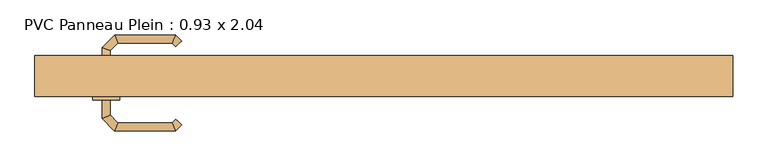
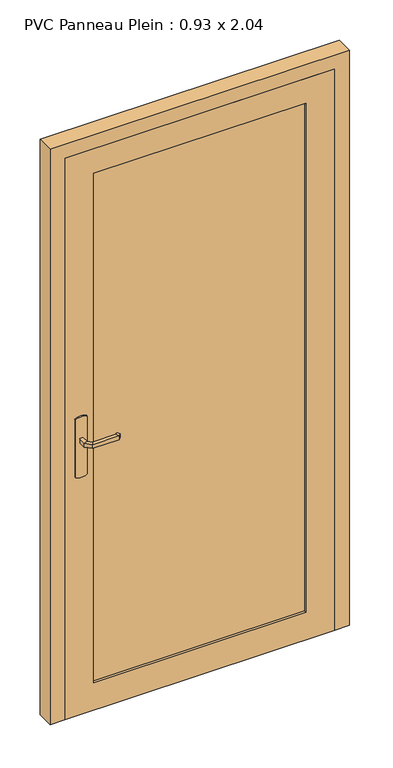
"""IFC4 building model written with IfcOpenShell, lengths in millimetres: door geometry, PVC Panneau Plein : 0.93 x 2.04."""

from ifc_helpers import new_model, si_unit, point, frame, frame_2d, origin, place, context, project, spatial, polyline, circle_curve, ellipse_curve, trimmed, segment, composite_curve, outline, extrude, faceted_brep, source, transform, mapped, element, save
from ifc_brep_helpers import plane_surface, cylinder_surface, advanced_brep


def pvc_panneau_plein_0_93_x_2_04_92b54130(model_context):
    return source(origin(), model_context, "Body", "SolidModel", [
        advanced_brep(
        [(-404.0, -48.7935702, 993.0), (-404.0, -48.7935702, 1007.0), (-416.0, -48.7935702, 1007.0), (-416.0, -48.7935702, 993.0), (-404.0, -26.3083657, 993.0), (-404.0, -26.3083657, 1007.0), (-416.0, -21.337803, 1007.0), (-416.0, -21.337803, 993.0), (-392.5147186, -14.8230843, 993.0), (-392.5147186, -14.8230843, 1007.0), (-397.4852814, -2.8230843, 1007.0), (-397.4852814, -2.8230843, 993.0), (-312.4394977, -14.8230843, 993.0), (-312.4394977, -14.8230843, 1007.0), (-307.468935, -2.8230843, 1007.0), (-307.468935, -2.8230843, 993.0), (-307.1257892, -20.1367928, 993.0), (-298.6405078, -11.6515115, 993.0), (-298.6405078, -11.6515115, 1007.0), (-307.1257892, -20.1367928, 1007.0)],
        [
            (0, 1),
            (1, 2, circle_curve(frame((-410.0, -48.7935702, 986.9542278), z_axis=(0.0, -1.0, 0.0), x_axis=(-1.0, 0.0, 0.0)), 20.9244589)),
            (2, 3),
            (3, 0, circle_curve(frame((-410.0, -48.7935702, 1013.0457722), z_axis=(0.0, -1.0, 0.0), x_axis=(-1.0, 0.0, 0.0)), 20.9244589)),
            (0, 4),
            (4, 5),
            (5, 1),
            (5, 6, ellipse_curve(frame((-410.0, -23.8230843, 986.9542278), z_axis=(-0.38268343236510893, -0.9238795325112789, 0.0), x_axis=(0.9238795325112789, -0.3826834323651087, 0.0)), 22.6484711, 20.9244589)),
            (6, 2),
            (6, 7),
            (7, 3),
            (7, 4, ellipse_curve(frame((-410.0, -23.8230843, 1013.0457722), z_axis=(-0.38268343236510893, -0.9238795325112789, 0.0), x_axis=(0.9238795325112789, -0.3826834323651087, 0.0)), 22.6484711, 20.9244589)),
            (4, 8),
            (8, 9),
            (9, 5),
            (9, 10, ellipse_curve(frame((-395.0, -8.8230843, 986.9542278), z_axis=(-0.9238795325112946, -0.38268343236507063, 0.0), x_axis=(0.3826834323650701, -0.9238795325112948, 0.0)), 22.6484711, 20.9244589)),
            (10, 6),
            (10, 11),
            (11, 7),
            (11, 8, ellipse_curve(frame((-395.0, -8.8230843, 1013.0457722), z_axis=(-0.9238795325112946, -0.38268343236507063, 0.0), x_axis=(0.3826834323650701, -0.9238795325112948, 0.0)), 22.6484711, 20.9244589)),
            (8, 12),
            (12, 13),
            (13, 9),
            (13, 14, ellipse_curve(frame((-309.9542163, -8.8230843, 986.9542278), z_axis=(-0.9238795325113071, 0.38268343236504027, 0.0), x_axis=(-0.38268343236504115, -0.9238795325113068, 0.0)), 22.6484711, 20.9244589)),
            (14, 10),
            (14, 15),
            (15, 11),
            (15, 12, ellipse_curve(frame((-309.9542163, -8.8230843, 1013.0457722), z_axis=(-0.9238795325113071, 0.38268343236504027, 0.0), x_axis=(-0.38268343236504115, -0.9238795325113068, 0.0)), 22.6484711, 20.9244589)),
            (16, 17, circle_curve(frame((-302.8831485, -15.8941521, 1013.0457722), z_axis=(0.7071067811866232, -0.7071067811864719, 0.0), x_axis=(0.7071067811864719, 0.7071067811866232, 0.0)), 20.9244589)),
            (17, 18),
            (18, 19, circle_curve(frame((-302.8831485, -15.8941521, 986.9542278), z_axis=(0.7071067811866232, -0.7071067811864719, 0.0), x_axis=(0.7071067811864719, 0.7071067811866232, 0.0)), 20.9244589)),
            (19, 16),
            (12, 16),
            (19, 13),
            (18, 14),
            (17, 15),
        ],
        [
            plane_surface(frame((-419.2195445, -48.7935702, 1000.0), z_axis=(0.0, -1.0, 0.0), x_axis=(0.0, 0.0, 1.0))),
            plane_surface(frame((-404.0, -48.7935702, 993.0), z_axis=(1.0, 0.0, 0.0), x_axis=(0.0, 1.0, 0.0))),
            cylinder_surface(frame((-410.0, -48.7935702, 986.9542278), z_axis=(0.0, -1.0, 0.0), x_axis=(-1.0, 0.0, 0.0)), 20.9244589),
            plane_surface(frame((-416.0, -48.7935702, 1007.0), z_axis=(-1.0, 0.0, 0.0), x_axis=(0.0, 1.0, 0.0))),
            cylinder_surface(frame((-410.0, -48.7935702, 1013.0457722), z_axis=(0.0, -1.0, 0.0), x_axis=(-1.0, 0.0, 0.0)), 20.9244589),
            plane_surface(frame((-404.0, -26.3083657, 993.0), z_axis=(0.707106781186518, -0.707106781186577, 0.0), x_axis=(0.707106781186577, 0.707106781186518, 0.0))),
            cylinder_surface(frame((-410.0, -23.8230843, 986.9542278), z_axis=(-0.7071067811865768, -0.7071067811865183, 0.0), x_axis=(-0.7071067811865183, 0.7071067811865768, 0.0)), 20.9244589),
            plane_surface(frame((-416.0, -21.337803, 1007.0), z_axis=(-0.7071067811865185, 0.7071067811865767, 0.0), x_axis=(0.7071067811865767, 0.7071067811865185, 0.0))),
            cylinder_surface(frame((-410.0, -23.8230843, 1013.0457722), z_axis=(-0.7071067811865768, -0.7071067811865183, 0.0), x_axis=(-0.7071067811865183, 0.7071067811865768, 0.0)), 20.9244589),
            plane_surface(frame((-392.5147186, -14.8230843, 993.0), z_axis=(0.0, -1.0, 0.0), x_axis=(1.0, 0.0, 0.0))),
            cylinder_surface(frame((-395.0, -8.8230843, 986.9542278), z_axis=(-1.0, 0.0, 0.0), x_axis=(0.0, 1.0, 0.0)), 20.9244589),
            plane_surface(frame((-397.4852814, -2.8230843, 1007.0), z_axis=(0.0, 1.0, 0.0), x_axis=(1.0, 0.0, 0.0))),
            cylinder_surface(frame((-395.0, -8.8230843, 1013.0457722), z_axis=(-1.0, 0.0, 0.0), x_axis=(0.0, 1.0, 0.0)), 20.9244589),
            plane_surface(frame((-302.8831485, -15.8941521, 990.7804555), z_axis=(0.7071067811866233, -0.7071067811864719, 0.0), x_axis=(0.7071067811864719, 0.7071067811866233, 0.0))),
            plane_surface(frame((-312.4394977, -14.8230843, 993.0), z_axis=(-0.707106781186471, -0.7071067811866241, 0.0), x_axis=(0.7071067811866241, -0.707106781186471, 0.0))),
            cylinder_surface(frame((-309.9542163, -8.8230843, 986.9542278), z_axis=(-0.7071067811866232, 0.7071067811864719, 0.0), x_axis=(0.7071067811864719, 0.7071067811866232, 0.0)), 20.9244589),
            plane_surface(frame((-307.468935, -2.8230843, 1007.0), z_axis=(0.7071067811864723, 0.7071067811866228, 0.0), x_axis=(0.7071067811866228, -0.7071067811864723, 0.0))),
            cylinder_surface(frame((-309.9542163, -8.8230843, 1013.0457722), z_axis=(-0.7071067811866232, 0.7071067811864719, 0.0), x_axis=(0.7071067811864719, 0.7071067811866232, 0.0)), 20.9244589),
        ],
        [
            (0, [[1, 2, 3, 4]]),
            (1, [[-1, 5, 6, 7]]),
            (2, [[-2, -7, 8, 9]]),
            (3, [[-3, -9, 10, 11]]),
            (4, [[-4, -11, 12, -5]]),
            (5, [[-6, 13, 14, 15]]),
            (6, [[-8, -15, 16, 17]]),
            (7, [[-10, -17, 18, 19]]),
            (8, [[-12, -19, 20, -13]]),
            (9, [[-14, 21, 22, 23]]),
            (10, [[-16, -23, 24, 25]]),
            (11, [[-18, -25, 26, 27]]),
            (12, [[-20, -27, 28, -21]]),
            (13, [[29, 30, 31, 32]]),
            (14, [[-22, 33, -32, 34]]),
            (15, [[-24, -34, -31, 35]]),
            (16, [[-26, -35, -30, 36]]),
            (17, [[-28, -36, -29, -33]]),
        ],
    ),
        advanced_brep(
        [(-416.0, -98.7935702, 1007.0), (-404.0, -98.7935702, 1007.0), (-404.0, -98.7935702, 993.0), (-416.0, -98.7935702, 993.0), (-416.0, -126.4445209, 1007.0), (-404.0, -121.4739582, 1007.0), (-404.0, -121.4739582, 993.0), (-416.0, -126.4445209, 993.0), (-397.62279, -144.8217309, 1007.0), (-392.6522273, -132.8217309, 1007.0), (-392.6522273, -132.8217309, 993.0), (-397.62279, -144.8217309, 993.0), (-307.496078, -144.8217309, 1007.0), (-312.4666408, -132.8217309, 1007.0), (-312.4666408, -132.8217309, 993.0), (-307.496078, -144.8217309, 993.0), (-298.6676509, -135.9933038, 1007.0), (-298.6676509, -135.9933038, 993.0), (-307.1529323, -127.5080224, 993.0), (-307.1529323, -127.5080224, 1007.0)],
        [
            (0, 1, circle_curve(frame((-410.0, -98.7935702, 986.9542278), z_axis=(0.0, 1.0, 0.0), x_axis=(1.0, 0.0, 0.0)), 20.9244589)),
            (1, 2),
            (2, 3, circle_curve(frame((-410.0, -98.7935702, 1013.0457722), z_axis=(0.0, 1.0, 0.0), x_axis=(1.0, 0.0, 0.0)), 20.9244589)),
            (3, 0),
            (0, 4),
            (4, 5, ellipse_curve(frame((-410.0, -123.9592395, 986.9542278), z_axis=(-0.3826834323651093, 0.9238795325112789, 0.0), x_axis=(0.9238795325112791, 0.38268343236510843, 0.0)), 22.6484711, 20.9244589)),
            (5, 1),
            (5, 6),
            (6, 2),
            (6, 7, ellipse_curve(frame((-410.0, -123.9592395, 1013.0457722), z_axis=(-0.3826834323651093, 0.9238795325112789, 0.0), x_axis=(0.9238795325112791, 0.38268343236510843, 0.0)), 22.6484711, 20.9244589)),
            (7, 3),
            (7, 4),
            (4, 8),
            (8, 9, ellipse_curve(frame((-395.1375086, -138.8217309, 986.9542278), z_axis=(-0.9238795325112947, 0.38268343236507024, 0.0), x_axis=(0.3826834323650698, 0.9238795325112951, 0.0)), 22.6484711, 20.9244589)),
            (9, 5),
            (9, 10),
            (10, 6),
            (10, 11, ellipse_curve(frame((-395.1375086, -138.8217309, 1013.0457722), z_axis=(-0.9238795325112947, 0.38268343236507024, 0.0), x_axis=(0.3826834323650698, 0.9238795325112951, 0.0)), 22.6484711, 20.9244589)),
            (11, 7),
            (11, 8),
            (8, 12),
            (12, 13, ellipse_curve(frame((-309.9813594, -138.8217309, 986.9542278), z_axis=(-0.9238795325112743, -0.3826834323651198, 0.0), x_axis=(-0.38268343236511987, 0.9238795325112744, 0.0)), 22.6484711, 20.9244589)),
            (13, 9),
            (13, 14),
            (14, 10),
            (14, 15, ellipse_curve(frame((-309.9813594, -138.8217309, 1013.0457722), z_axis=(-0.9238795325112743, -0.3826834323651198, 0.0), x_axis=(-0.38268343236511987, 0.9238795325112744, 0.0)), 22.6484711, 20.9244589)),
            (15, 11),
            (15, 12),
            (16, 17),
            (17, 18, circle_curve(frame((-302.9102916, -131.7506631, 1013.0457722), z_axis=(0.7071067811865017, 0.7071067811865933, 0.0), x_axis=(-0.7071067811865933, 0.7071067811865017, 0.0)), 20.9244589)),
            (18, 19),
            (19, 16, circle_curve(frame((-302.9102916, -131.7506631, 986.9542278), z_axis=(0.7071067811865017, 0.7071067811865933, 0.0), x_axis=(-0.7071067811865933, 0.7071067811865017, 0.0)), 20.9244589)),
            (12, 16),
            (19, 13),
            (18, 14),
            (17, 15),
        ],
        [
            plane_surface(frame((-419.2195445, -98.7935702, 1000.0), z_axis=(0.0, 1.0, 0.0), x_axis=(0.0, 0.0, -1.0))),
            cylinder_surface(frame((-410.0, -98.7935702, 986.9542278), z_axis=(0.0, 1.0, 0.0), x_axis=(1.0, 0.0, 0.0)), 20.9244589),
            plane_surface(frame((-404.0, -98.7935702, 1007.0), z_axis=(1.0, 0.0, 0.0), x_axis=(0.0, -1.0, 0.0))),
            cylinder_surface(frame((-410.0, -98.7935702, 1013.0457722), z_axis=(0.0, 1.0, 0.0), x_axis=(1.0, 0.0, 0.0)), 20.9244589),
            plane_surface(frame((-416.0, -98.7935702, 993.0), z_axis=(-1.0, 0.0, 0.0), x_axis=(0.0, -1.0, 0.0))),
            cylinder_surface(frame((-410.0, -123.9592395, 986.9542278), z_axis=(-0.7071067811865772, 0.7071067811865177, 0.0), x_axis=(0.7071067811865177, 0.7071067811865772, 0.0)), 20.9244589),
            plane_surface(frame((-404.0, -121.4739582, 1007.0), z_axis=(0.7071067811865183, 0.7071067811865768, 0.0), x_axis=(0.7071067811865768, -0.7071067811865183, 0.0))),
            cylinder_surface(frame((-410.0, -123.9592395, 1013.0457722), z_axis=(-0.7071067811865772, 0.7071067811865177, 0.0), x_axis=(0.7071067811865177, 0.7071067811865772, 0.0)), 20.9244589),
            plane_surface(frame((-416.0, -126.4445209, 993.0), z_axis=(-0.707106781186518, -0.707106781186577, 0.0), x_axis=(0.707106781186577, -0.707106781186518, 0.0))),
            cylinder_surface(frame((-395.1375086, -138.8217309, 986.9542278), z_axis=(-1.0, 0.0, 0.0), x_axis=(0.0, 1.0, 0.0)), 20.9244589),
            plane_surface(frame((-392.6522273, -132.8217309, 1007.0), z_axis=(0.0, 1.0, 0.0), x_axis=(1.0, 0.0, 0.0))),
            cylinder_surface(frame((-395.1375086, -138.8217309, 1013.0457722), z_axis=(-1.0, 0.0, 0.0), x_axis=(0.0, 1.0, 0.0)), 20.9244589),
            plane_surface(frame((-397.62279, -144.8217309, 993.0), z_axis=(0.0, -1.0, 0.0), x_axis=(1.0, 0.0, 0.0))),
            plane_surface(frame((-302.9102916, -131.7506631, 1009.2195445), z_axis=(0.7071067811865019, 0.7071067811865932, 0.0), x_axis=(0.7071067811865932, -0.7071067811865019, 0.0))),
            cylinder_surface(frame((-309.9813594, -138.8217309, 986.9542278), z_axis=(-0.7071067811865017, -0.7071067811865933, 0.0), x_axis=(-0.7071067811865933, 0.7071067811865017, 0.0)), 20.9244589),
            plane_surface(frame((-312.4666408, -132.8217309, 1007.0), z_axis=(-0.7071067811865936, 0.7071067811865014, 0.0), x_axis=(0.7071067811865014, 0.7071067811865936, 0.0))),
            cylinder_surface(frame((-309.9813594, -138.8217309, 1013.0457722), z_axis=(-0.7071067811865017, -0.7071067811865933, 0.0), x_axis=(-0.7071067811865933, 0.7071067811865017, 0.0)), 20.9244589),
            plane_surface(frame((-307.496078, -144.8217309, 993.0), z_axis=(0.707106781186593, -0.7071067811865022, 0.0), x_axis=(0.7071067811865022, 0.707106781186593, 0.0))),
        ],
        [
            (0, [[1, 2, 3, 4]]),
            (1, [[-1, 5, 6, 7]]),
            (2, [[-2, -7, 8, 9]]),
            (3, [[-3, -9, 10, 11]]),
            (4, [[-4, -11, 12, -5]]),
            (5, [[-6, 13, 14, 15]]),
            (6, [[-8, -15, 16, 17]]),
            (7, [[-10, -17, 18, 19]]),
            (8, [[-12, -19, 20, -13]]),
            (9, [[-14, 21, 22, 23]]),
            (10, [[-16, -23, 24, 25]]),
            (11, [[-18, -25, 26, 27]]),
            (12, [[-20, -27, 28, -21]]),
            (13, [[29, 30, 31, 32]]),
            (14, [[-22, 33, -32, 34]]),
            (15, [[-24, -34, -31, 35]]),
            (16, [[-26, -35, -30, 36]]),
            (17, [[-28, -36, -29, -33]]),
        ],
    ),
        extrude(outline(composite_curve([segment(trimmed(circle_curve(frame_2d((1045.3589838, -410.0)), 40.0), [point((1080.0, -390.0))], [point((1080.0, -430.0))], False, "CARTESIAN"), True, "CONTINUOUS"), segment(polyline([(1080.0, -430.0), (870.0, -430.0)]), True, "CONTINUOUS"), segment(trimmed(circle_curve(frame_2d((904.6410162, -410.0)), 40.0), [point((870.0, -430.0))], [point((870.0, -390.0))], False, "CARTESIAN"), True, "CONTINUOUS"), segment(polyline([(870.0, -390.0), (1080.0, -390.0)]), True, "CONTINUOUS")], self_intersect=False)), frame((0.0, -53.7935702, 0.0), z_axis=(0.0, 1.0, 0.0), x_axis=(0.0, 0.0, 1.0)), (0.0, 0.0, 1.0), 5.0),
        extrude(outline(composite_curve([segment(trimmed(circle_curve(frame_2d((904.6410162, -410.0)), 40.0), [point((870.0, -430.0))], [point((870.0, -390.0))], False, "CARTESIAN"), True, "CONTINUOUS"), segment(polyline([(870.0, -390.0), (1080.0, -390.0)]), True, "CONTINUOUS"), segment(trimmed(circle_curve(frame_2d((1045.3589838, -410.0)), 40.0), [point((1080.0, -390.0))], [point((1080.0, -430.0))], False, "CARTESIAN"), True, "CONTINUOUS"), segment(polyline([(1080.0, -430.0), (870.0, -430.0)]), True, "CONTINUOUS")], self_intersect=False)), frame((0.0, -98.7935702, 0.0), z_axis=(0.0, 1.0, 0.0), x_axis=(0.0, 0.0, 1.0)), (0.0, 0.0, 1.0), 5.0),
        faceted_brep([(-515.0, -93.7935702, 0.0), (-515.0, -33.7935702, 0.0), (-450.0, -33.7935702, 0.0), (-450.0, -53.7935702, 0.0), (-465.0, -53.7935702, 0.0), (-465.0, -93.7935702, 0.0), (-515.0, -93.7935702, 2090.0), (-515.0, -33.7935702, 2090.0), (515.0, -33.7935702, 2090.0), (515.0, -33.7935702, 0.0), (450.0, -33.7935702, 0.0), (450.0, -33.7935702, 2025.0), (-450.0, -33.7935702, 2025.0), (-450.0, -53.7935702, 2025.0), (450.0, -53.7935702, 2025.0), (450.0, -53.7935702, 0.0), (465.0, -53.7935702, 0.0), (465.0, -53.7935702, 2040.0), (-465.0, -53.7935702, 2040.0), (-465.0, -93.7935702, 2040.0), (465.0, -93.7935702, 2040.0), (465.0, -93.7935702, 0.0), (515.0, -93.7935702, 0.0), (515.0, -93.7935702, 2090.0)], [[[0, 1, 2, 3, 4, 5]], [[1, 0, 6, 7]], [[2, 1, 7, 8, 9, 10, 11, 12]], [[3, 2, 12, 13]], [[4, 3, 13, 14, 15, 16, 17, 18]], [[5, 4, 18, 19]], [[0, 5, 19, 20, 21, 22, 23, 6]], [[9, 8, 23, 22]], [[10, 9, 22, 21, 16, 15]], [[11, 10, 15, 14]], [[17, 16, 21, 20]], [[7, 6, 23, 8]], [[12, 11, 14, 13]], [[18, 17, 20, 19]]]),
        faceted_brep([(-465.0, -93.7935702, 2040.0), (-465.0, -93.7935702, 0.0), (465.0, -93.7935702, 0.0), (465.0, -93.7935702, 2040.0), (365.0, -93.7935702, 1950.0), (365.0, -93.7935702, 100.0), (-365.0, -93.7935702, 100.0), (-365.0, -93.7935702, 1950.0), (-465.0, -53.7935702, 2040.0), (465.0, -53.7935702, 2040.0), (465.0, -53.7935702, 0.0), (-465.0, -53.7935702, 0.0), (-365.0, -53.7935702, 1950.0), (-365.0, -53.7935702, 100.0), (365.0, -53.7935702, 100.0), (365.0, -53.7935702, 1950.0), (365.0, -85.7935702, 1950.0), (-365.0, -85.7935702, 1950.0), (-365.0, -85.7935702, 100.0), (365.0, -85.7935702, 100.0), (-365.0, -61.7935702, 1950.0), (365.0, -61.7935702, 1950.0), (365.0, -61.7935702, 100.0), (-365.0, -61.7935702, 100.0)], [[[0, 1, 2, 3], [4, 5, 6, 7]], [[8, 9, 10, 11], [12, 13, 14, 15]], [[1, 0, 8, 11]], [[2, 1, 11, 10]], [[3, 2, 10, 9]], [[0, 3, 9, 8]], [[16, 17, 18, 19]], [[16, 19, 5, 4]], [[19, 18, 6, 5]], [[18, 17, 7, 6]], [[17, 16, 4, 7]], [[20, 21, 22, 23]], [[20, 23, 13, 12]], [[23, 22, 14, 13]], [[22, 21, 15, 14]], [[21, 20, 12, 15]]]),
    ])


if __name__ == "__main__":
    model = new_model("IFC4")
    model_context = context("Model", 3, world=origin())
    ifc_project = project(units=[si_unit("LENGTHUNIT", "METRE", prefix="MILLI")], contexts=[model_context])
    site = spatial("IfcSite", under=ifc_project)
    building = spatial("IfcBuilding", under=site)
    placement = place(None, origin())
    pvc_panneau_plein_0_93_x_2_04_shape = pvc_panneau_plein_0_93_x_2_04_92b54130(model_context)
    element("IfcDoor", 1, ObjectType="PVC Panneau Plein : 0.93 x 2.04", at=placement, inside=building, context=model_context, shape_type="MappedRepresentation", body=[
        mapped(pvc_panneau_plein_0_93_x_2_04_shape, transform((0.0, 0.0, 0.0), x_axis=(1.0, 0.0, 0.0), y_axis=(0.0, 1.0, 0.0), z_axis=(0.0, 0.0, 1.0))),
    ])
    save(model, "model.ifc")
